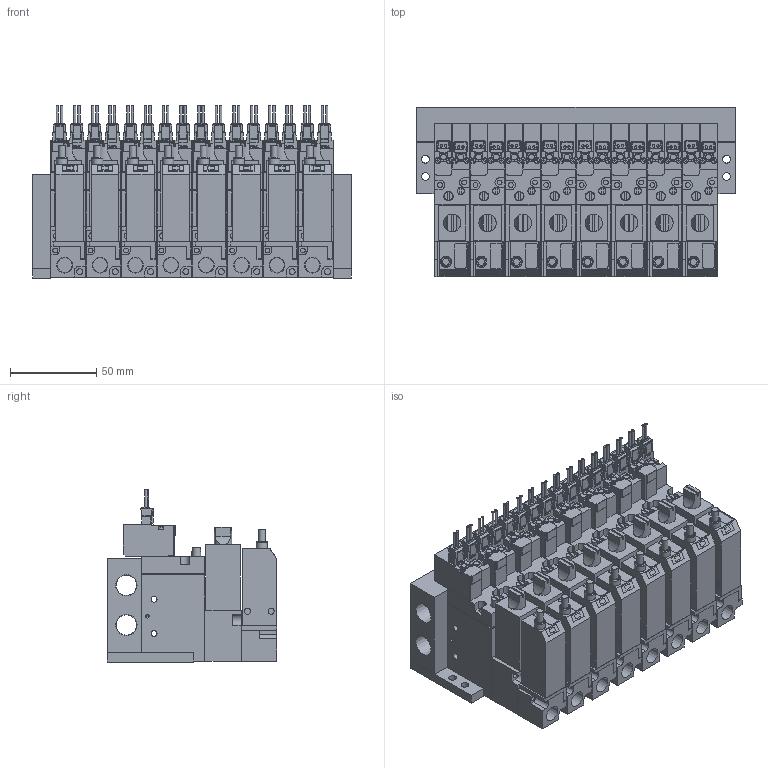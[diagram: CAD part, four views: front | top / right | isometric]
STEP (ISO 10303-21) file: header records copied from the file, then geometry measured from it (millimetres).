
FILE_DESCRIPTION(('STEP AP203'),'1');
FILE_NAME('BMPV32M2NAB25AL808.stp','2025-06-17T00:14:41',(' '),(' '),'Spatial InterOp 3D',' ',' ');
FILE_SCHEMA(('CONFIG_CONTROL_DESIGN'));
Length unit declared in the file: millimetre
Products named in the file (100): BMPV32M2NAB25AL808; Filter Assy; __; _____; MB BRACKET; MB08; Pressure sensor ABSL; ___ ___2; ___-2(Rc); ___; upper plate-A; ______; ____; VACUUM VALVE FUNCTION MPV42-A; UV280-4E
Assembly tree (99 placements, depth 2):
  BMPV32M2NAB25AL808
    Filter Assy
    __
    _____
    Filter Assy
    __
    _____
    Filter Assy
    __
    _____
    Filter Assy
    __
    _____
    Filter Assy
    __
    _____
    Filter Assy
    __
    _____
    Filter Assy
    __
    _____
    MB BRACKET
    MB08
    Filter Assy
    __
    _____
    Pressure sensor ABSL
    MB BRACKET
    ___ ___2
    ___-2(Rc)
    ___-2(Rc)
    ___ ___2
    Pressure sensor ABSL
    ___-2(Rc)
    ___ ___2
    Pressure sensor ABSL
    ___-2(Rc)
    ___ ___2
    Pressure sensor ABSL
    ___-2(Rc)
    ___ ___2
    Pressure sensor ABSL
    ___-2(Rc)
    ___ ___2
    Pressure sensor ABSL
    ___-2(Rc)
    ___ ___2
    Pressure sensor ABSL
    ___-2(Rc)
    ___ ___2
    Pressure sensor ABSL
    ___
    upper plate-A
    ______
    ____
    VACUUM VALVE FUNCTION MPV42-A
    ___
    upper plate-A
    ______
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Bounding box: 184.5 x 98 x 99.75 mm (x, y, z)
Volume: 953675.2 mm3; surface area: 313192.9 mm2
Topology: 99 solids, 99 shells, 3151 faces, 8188 edges, 5424 vertices
Faces by surface type: plane 2533, cylinder 554, cone 56, torus 8
Full cylindrical faces by diameter (mm): 1.4 x32, 1.8 x16, 2 x16, 2.5 x20, 2.8 x32, 3 x32, 3.5 x100, 4 x16, 4.2 x8, 4.5 x4, 5 x8, 5.5 x8, 6.5 x14, 8.522 x8, 11.776 x2
Entity records: 98630 total; most frequent: CARTESIAN_POINT 16863, DIRECTION 15522, ORIENTED_EDGE 15352, EDGE_CURVE 7676, LINE 6268, VECTOR 6268, VERTEX_POINT 5344, AXIS2_PLACEMENT_3D 4627
